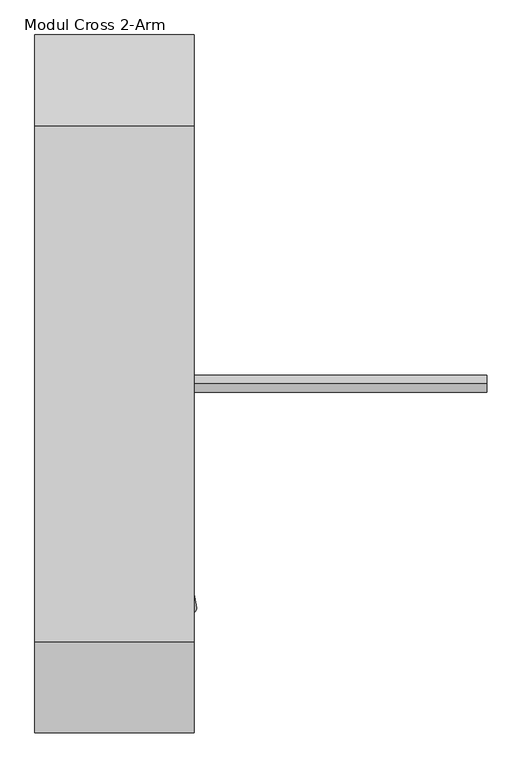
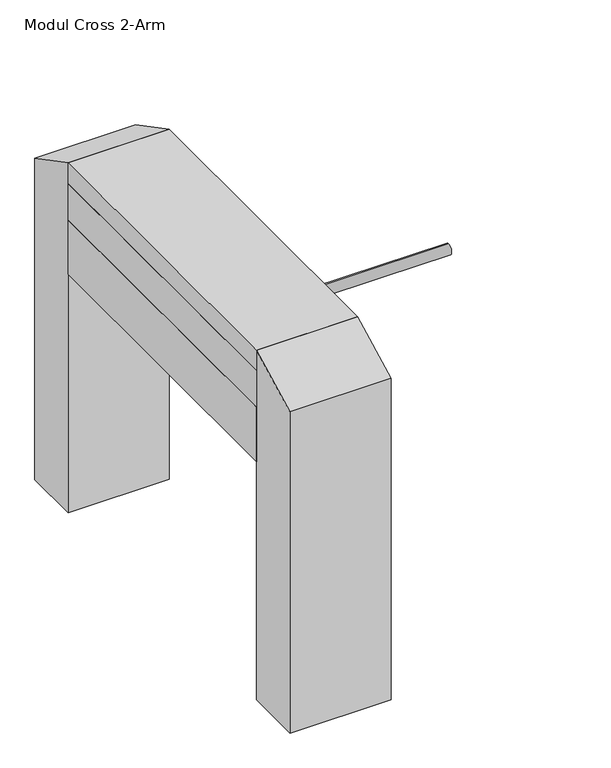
"""IFC4 building model written with IfcOpenShell, lengths in millimetres: proxy geometry, Gotschlich_Турникет-трипод_Тумбовый_Modul_Cross _R18 : Modul Cross 2-Arm."""

from ifc_helpers import new_model, si_unit, point, frame, origin, origin_2d, place, context, project, spatial, polyline, circle_curve, trimmed, segment, composite_curve, outline, extrude, source, transform, mapped, element, save
from ifc_brep_helpers import plane_surface, cylinder_surface, revolved_surface, spline_curve, advanced_brep


def modul_cross_2_arm_839a2599(model_context):
    return source(origin(), model_context, "Body", "SolidModel", [
        extrude(outline(composite_curve([segment(trimmed(circle_curve(origin_2d(), 15.0), [point((0.0, -15.0))], [point((0.0, 15.0))], False, "CARTESIAN"), True, "CONTINUOUS"), segment(trimmed(circle_curve(origin_2d(), 15.0), [point((0.0, 15.0))], [point((0.0, -15.0))], False, "CARTESIAN"), True, "CONTINUOUS")], self_intersect=False)), frame((653.679124, 0.0, 769.1333674), z_axis=(-0.999998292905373, 0.0, 0.0018477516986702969), x_axis=(0.0, -1.0, 0.0)), (0.0, 0.0, 1.0), 565.0),
        extrude(outline(composite_curve([segment(trimmed(circle_curve(origin_2d(), 15.0), [point((0.0, -14.9999999))], [point((0.0, 15.0))], False, "CARTESIAN"), True, "CONTINUOUS"), segment(trimmed(circle_curve(origin_2d(), 15.0), [point((0.0, 15.0))], [point((0.0, -14.9999999))], False, "CARTESIAN"), True, "CONTINUOUS")], self_intersect=False)), frame((128.7950093, -394.9814921, 330.3534641), z_axis=(-0.11839890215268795, 0.6634139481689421, 0.7388258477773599), x_axis=(0.6644414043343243, -0.499999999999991, 0.5554436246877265)), (0.0, 0.0, 1.0), 565.0),
        advanced_brep(
        [(104.9682219, 0.0, 783.7935062), (36.6846765, 0.0, 726.7114826), (14.8747204, 0.0, 752.8013272), (83.1582658, 0.0, 809.8833509), (103.2381184, 0.0, 753.5251033), (66.7803308, 0.0, 723.0480055), (94.5538378, 0.0, 726.8689489), (49.0164931, 0.0, 781.342339)],
        [
            (0, 1, circle_curve(frame((70.8264492, 0.0, 755.2524944), z_axis=(-0.6413710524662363, 0.0, 0.7672308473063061), x_axis=(-0.7672308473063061, 0.0, -0.6413710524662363)), 44.5)),
            (1, 2),
            (2, 3, circle_curve(frame((49.0164931, 0.0, 781.342339), z_axis=(0.6413710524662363, 0.0, -0.7672308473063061), x_axis=(-0.7672308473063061, 0.0, -0.6413710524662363)), 44.5)),
            (3, 0),
            (1, 0, circle_curve(frame((70.8264492, 0.0, 755.2524944), z_axis=(-0.6413710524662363, 0.0, 0.7672308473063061), x_axis=(-0.7672308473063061, 0.0, -0.6413710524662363)), 44.5)),
            (3, 2, circle_curve(frame((49.0164931, 0.0, 781.342339), z_axis=(0.6413710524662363, 0.0, -0.7672308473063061), x_axis=(-0.7672308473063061, 0.0, -0.6413710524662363)), 44.5)),
            (4, 5, circle_curve(frame((85.0092246, 0.0, 738.2865544), z_axis=(-0.6413710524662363, 0.0, 0.7672308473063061), x_axis=(-0.7672308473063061, 0.0, -0.6413710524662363)), 23.7593338)),
            (5, 1),
            (0, 4),
            (5, 4, circle_curve(frame((85.0092246, 0.0, 738.2865544), z_axis=(-0.6413710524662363, 0.0, 0.7672308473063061), x_axis=(-0.7672308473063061, 0.0, -0.6413710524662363)), 23.7593338)),
            (6, 5, spline_curve(3, [(94.5538378, 0.0, 726.8689489), (89.254880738, 0.0, 722.439255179), (79.997045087, 0.0, 721.165607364), (66.7803308, 0.0, 723.0480055)], [4, 4], [0.0, 0.049844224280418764])),
            (4, 6, spline_curve(3, [(103.2381184, 0.0, 753.5251033), (102.747555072, 0.0, 740.184027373), (99.852794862, 0.0, 731.298642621), (94.5538378, 0.0, 726.8689489)], [4, 4], [0.0, 0.049844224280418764])),
            (2, 7),
            (7, 3),
        ],
        [
            cylinder_surface(frame((109.9467431, 0.0, 708.4554085), z_axis=(0.6413710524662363, 0.0, -0.7672308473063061), x_axis=(-0.7672308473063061, 0.0, -0.6413710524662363)), 44.5),
            revolved_surface(polyline([(36.6846765, 0.0, 726.7114826), (66.7803308, 0.0, 723.0480055)]), (109.9467431, 0.0, 708.4554085), (0.6413710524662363, 0.0, -0.7672308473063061)),
            revolved_surface(spline_curve(3, [(66.7803308, 0.0, 723.0480055), (79.997045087, 0.0, 721.165607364), (89.254880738, 0.0, 722.439255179), (94.5538378, 0.0, 726.8689489)], [4, 4], [0.0, 0.049844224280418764]), (109.9467431, 0.0, 708.4554085), (0.6413710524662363, 0.0, -0.7672308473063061)),
            plane_surface(frame((49.0164931, 0.0, 781.342339), z_axis=(-0.6413710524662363, 0.0, 0.7672308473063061), x_axis=(-0.7672308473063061, 0.0, -0.6413710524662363))),
        ],
        [
            (0, [[1, 2, 3, 4]]),
            (0, [[5, -4, 6, -2]]),
            (1, [[7, 8, -1, 9]]),
            (1, [[10, -9, -5, -8]]),
            (2, [[11, -7, 12]]),
            (2, [[-12, -10, -11]]),
            (3, [[-3, 13, 14]]),
            (3, [[-6, -14, -13]]),
        ],
    ),
        extrude(outline(polyline([(857.4005264, 140.0), (857.4005264, -140.0), (698.0, -140.0), (698.0, -50.6805748), (857.4005264, 140.0)])), frame((0.0, -452.5, 0.0), z_axis=(0.0, 1.0, 0.0), x_axis=(0.0, 0.0, 1.0)), (0.0, 0.0, 1.0), 905.0),
        extrude(outline(polyline([(-140.0, -452.5), (-140.0, 452.5), (140.0, 452.5), (140.0, -452.5), (-140.0, -452.5)])), frame((0.0, 0.0, 857.4005264), z_axis=(0.0, 0.0, 1.0), x_axis=(1.0, 0.0, 0.0)), (0.0, 0.0, 1.0), 107.0994736),
        extrude(outline(polyline([(-140.0, -452.5), (-140.0, 452.5), (140.0, 452.5), (140.0, -452.5), (-140.0, -452.5)])), frame((0.0, 0.0, 964.5), z_axis=(0.0, 0.0, 1.0), x_axis=(1.0, 0.0, 0.0)), (0.0, 0.0, 1.0), 60.5),
        extrude(outline(polyline([(-612.5, 941.6990828), (-452.5, 1025.0), (-452.5, 0.0), (-612.5, 0.0), (-612.5, 941.6990828)])), frame((-140.0, 0.0, 0.0), z_axis=(1.0, 0.0, 0.0), x_axis=(0.0, 1.0, 0.0)), (0.0, 0.0, 1.0), 280.0),
        extrude(outline(polyline([(612.5, 941.6990828), (612.5, 0.0), (452.5, 0.0), (452.5, 1025.0), (612.5, 941.6990828)])), frame((-140.0, 0.0, 0.0), z_axis=(1.0, 0.0, 0.0), x_axis=(0.0, 1.0, 0.0)), (0.0, 0.0, 1.0), 280.0),
    ])


if __name__ == "__main__":
    model = new_model("IFC4")
    model_context = context("Model", 3, world=origin())
    ifc_project = project(units=[si_unit("LENGTHUNIT", "METRE", prefix="MILLI")], contexts=[model_context])
    site = spatial("IfcSite", under=ifc_project)
    building = spatial("IfcBuilding", under=site)
    placement = place(None, origin())
    modul_cross_2_arm_shape = modul_cross_2_arm_839a2599(model_context)
    element("IfcBuildingElementProxy", 1, Name="Gotschlich_Турникет-трипод_Тумбовый_Modul_Cross _R18 : Modul Cross 2-Arm", ObjectType="Gotschlich_Турникет-трипод_Тумбовый_Modul_Cross _R18 : Modul Cross 2-Arm", at=placement, inside=building, context=model_context, shape_type="MappedRepresentation", body=[
        mapped(modul_cross_2_arm_shape, transform((0.0, 0.0, 0.0), x_axis=(1.0, 0.0, 0.0), y_axis=(0.0, 1.0, 0.0), z_axis=(0.0, 0.0, 1.0))),
    ])
    save(model, "model.ifc")
